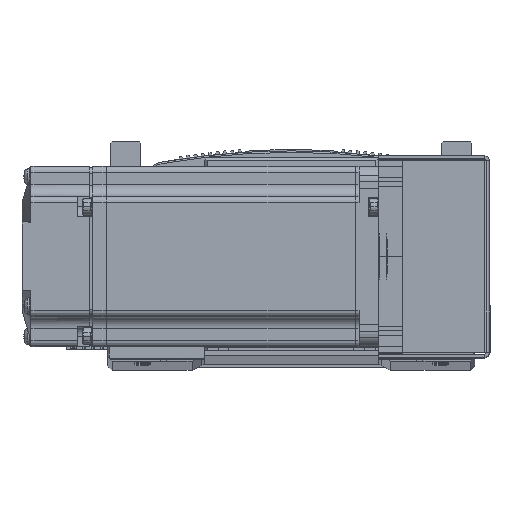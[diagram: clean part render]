
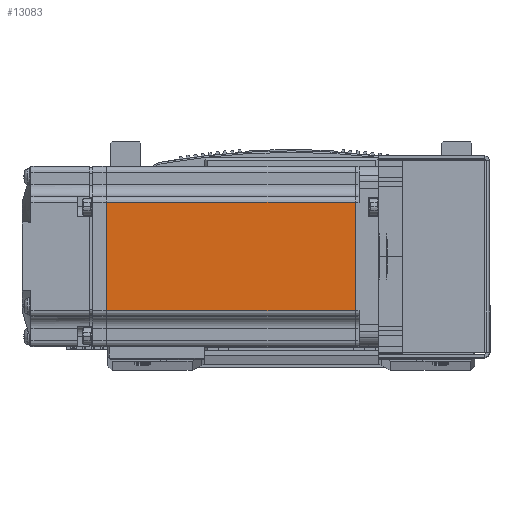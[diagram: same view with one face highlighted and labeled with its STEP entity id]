
A CAD part, top view. The second image highlights one B-rep face of the part: STEP entity #13083.
In plain terms, the highlighted planar face has unit normal (0, 0, 1) as drawn and (0, 1, 0) by its records, which use the part's own axes.
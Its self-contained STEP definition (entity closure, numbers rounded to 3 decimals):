
#2009 = ORIENTED_EDGE ( 'NONE', *, *, #72077, .T. ) ;
#2013 = ORIENTED_EDGE ( 'NONE', *, *, #72116, .T. ) ;
#2019 = ORIENTED_EDGE ( 'NONE', *, *, #72146, .F. ) ;
#2033 = ORIENTED_EDGE ( 'NONE', *, *, #72035, .T. ) ;
#4562 = VECTOR ( 'NONE', #48867, 1000. ) ;
#4593 = LINE ( 'NONE', #48807, #4562 ) ;
#4671 = VECTOR ( 'NONE', #49164, 1000. ) ;
#4684 = LINE ( 'NONE', #48991, #4695 ) ;
#4687 = LINE ( 'NONE', #49167, #4671 ) ;
#4695 = VECTOR ( 'NONE', #49034, 1000. ) ;
#6308 = LINE ( 'NONE', #49234, #8744 ) ;
#8744 = VECTOR ( 'NONE', #49200, 1000. ) ;
#13083 = ADVANCED_FACE ( 'NONE', ( #52318 ), #82730, .T. ) ;
#18483 = VERTEX_POINT ( 'NONE', #85439 ) ;
#18584 = VERTEX_POINT ( 'NONE', #85591 ) ;
#18597 = VERTEX_POINT ( 'NONE', #85596 ) ;
#18680 = VERTEX_POINT ( 'NONE', #85632 ) ;
#48807 = CARTESIAN_POINT ( 'NONE',  ( -6.5, 30., 18. ) ) ;
#48867 = DIRECTION ( 'NONE',  ( 1., 0., 0. ) ) ;
#48991 = CARTESIAN_POINT ( 'NONE',  ( -6.5, 30., -18. ) ) ;
#49034 = DIRECTION ( 'NONE',  ( -1., 0., 0. ) ) ;
#49164 = DIRECTION ( 'NONE',  ( 0., 0., 1. ) ) ;
#49167 = CARTESIAN_POINT ( 'NONE',  ( -90.45, 30., 0. ) ) ;
#49200 = DIRECTION ( 'NONE',  ( 0., 0., 1. ) ) ;
#49234 = CARTESIAN_POINT ( 'NONE',  ( -7.75, 30., 0. ) ) ;
#52318 = FACE_OUTER_BOUND ( 'NONE', #62338, .T. ) ;
#62338 = EDGE_LOOP ( 'NONE', ( #2019, #2009, #2013, #2033 ) ) ;
#71064 = AXIS2_PLACEMENT_3D ( 'NONE', #82741, #82743, #82770 ) ;
#72035 = EDGE_CURVE ( 'NONE', #18584, #18483, #4593, .T. ) ;
#72077 = EDGE_CURVE ( 'NONE', #18680, #18597, #4684, .T. ) ;
#72116 = EDGE_CURVE ( 'NONE', #18597, #18584, #4687, .T. ) ;
#72146 = EDGE_CURVE ( 'NONE', #18680, #18483, #6308, .T. ) ;
#82730 = PLANE ( 'NONE',  #71064 ) ;
#82741 = CARTESIAN_POINT ( 'NONE',  ( -6.5, 30., 25. ) ) ;
#82743 = DIRECTION ( 'NONE',  ( 0., 1., 0. ) ) ;
#82770 = DIRECTION ( 'NONE',  ( 0., 0., 1. ) ) ;
#85439 = CARTESIAN_POINT ( 'NONE',  ( -7.75, 30., 18. ) ) ;
#85591 = CARTESIAN_POINT ( 'NONE',  ( -90.45, 30., 18. ) ) ;
#85596 = CARTESIAN_POINT ( 'NONE',  ( -90.45, 30., -18. ) ) ;
#85632 = CARTESIAN_POINT ( 'NONE',  ( -7.75, 30., -18. ) ) ;
